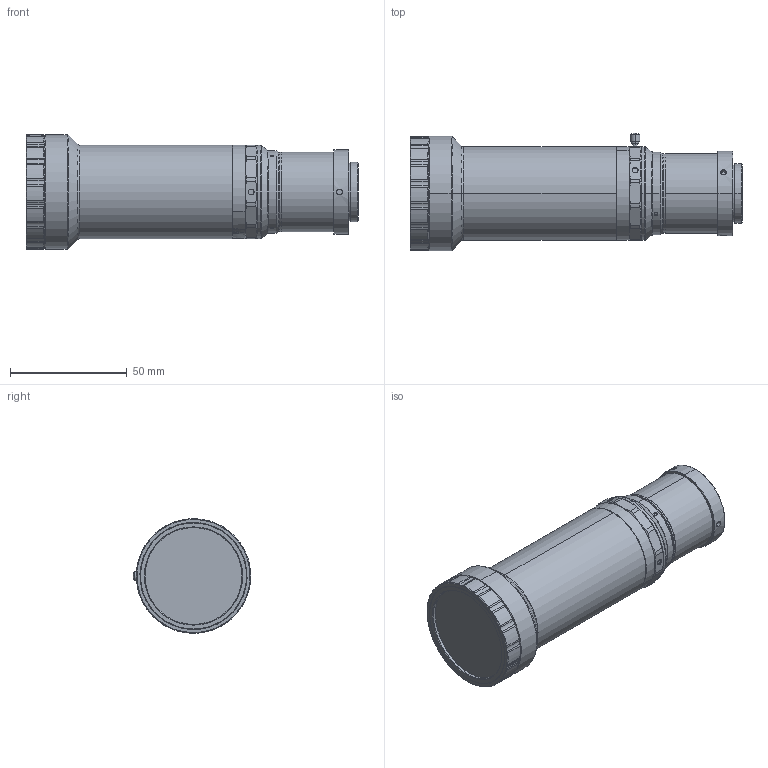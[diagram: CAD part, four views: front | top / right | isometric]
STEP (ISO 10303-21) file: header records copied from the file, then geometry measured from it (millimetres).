
FILE_DESCRIPTION (( 'STEP AP203' ), '1' );
FILE_NAME ('DTCA121-22.2-G.STEP', '2024-02-20T07:11:18', ( '' ), ( '' ), 'SwSTEP 2.0', 'SolidWorks 2017', '' );
FILE_SCHEMA (( 'CONFIG_CONTROL_DESIGN' ));
Length unit declared in the file: millimetre
Products named in the file (1): DTCA121-22.2-G
Bounding box: 142.1 x 50.29 x 49 mm (x, y, z)
Volume: 173134.3 mm3; surface area: 21927.1 mm2
Topology: 2 solids, 2 shells, 485 faces, 1215 edges, 776 vertices
Faces by surface type: cylinder 155, plane 126, bspline 96, cone 94, torus 12, sphere 2
Entity records: 19763 total; most frequent: CARTESIAN_POINT 9008, ORIENTED_EDGE 2430, DIRECTION 1865, EDGE_CURVE 1215, VERTEX_POINT 776, AXIS2_PLACEMENT_3D 697, EDGE_LOOP 527, FACE_OUTER_BOUND 485
